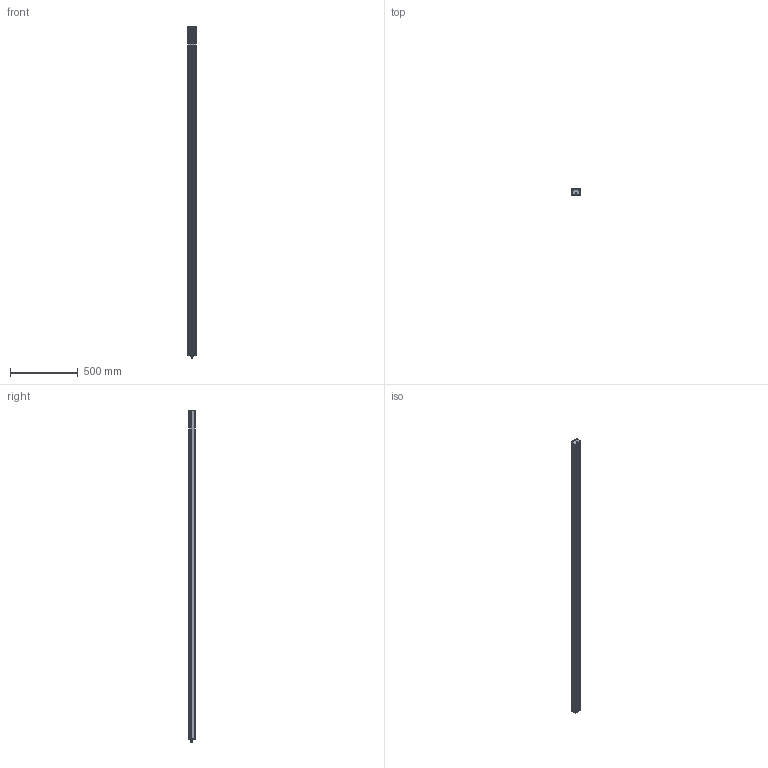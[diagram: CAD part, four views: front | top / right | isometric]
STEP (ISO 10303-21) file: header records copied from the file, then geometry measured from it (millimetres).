
FILE_DESCRIPTION (( 'STEP AP214' ), '1' );
FILE_NAME ('EFFI-FLEX-LG-2400-ZZZ.STEP', '2021-08-31T06:50:55', ( '' ), ( '' ), 'SwSTEP 2.0', 'SolidWorks 2021', '' );
FILE_SCHEMA (( 'AUTOMOTIVE_DESIGN' ));
Length unit declared in the file: millimetre
Products named in the file (6): 017772; EFFI-FLEX-LG-2400-ZZZ; 017964; 018003; 000104; 017965
Assembly tree (10 placements, depth 2):
  EFFI-FLEX-LG-2400-ZZZ
    017772
    017964
    000104
    018003  x6
    017965
Bounding box: 60.02 x 47.11 x 2452.7 mm (x, y, z)
Volume: 5924571.4 mm3; surface area: 659653.6 mm2
Topology: 10 solids, 10 shells, 1305 faces, 3301 edges, 2096 vertices
Faces by surface type: plane 735, cylinder 307, bspline 103, torus 65, cone 59, sphere 36
Full cylindrical faces by diameter (mm): 0.77 x4, 0.97 x5, 1 x7, 1.05 x4, 1.65 x1, 3.6 x6, 4 x6, 4.591 x1, 7 x6, 7.7 x1, 8.3 x1, 10.4 x1, 11 x1
Entity records: 41932 total; most frequent: CARTESIAN_POINT 12726, ORIENTED_EDGE 5424, DIRECTION 4943, EDGE_CURVE 2712, VECTOR 1905, LINE 1905, VERTEX_POINT 1807, AXIS2_PLACEMENT_3D 1519
